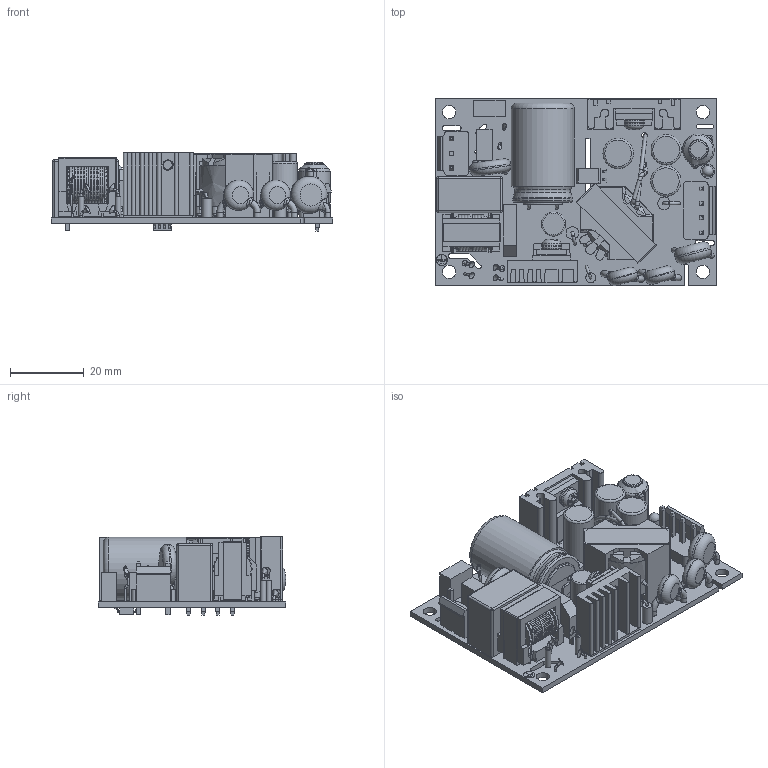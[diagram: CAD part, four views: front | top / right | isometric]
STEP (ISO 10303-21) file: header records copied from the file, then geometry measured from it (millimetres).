
FILE_DESCRIPTION (( 'STEP AP203' ), '1' );
FILE_NAME ('CFM40MXXX-1130103.STEP', '2024-08-02T09:09:31', ( '' ), ( '' ), 'SwSTEP 2.0', 'SolidWorks 2020', '' );
FILE_SCHEMA (( 'CONFIG_CONTROL_DESIGN' ));
Length unit declared in the file: millimetre
Products named in the file (1): CFM40MXXX-1130103
Bounding box: 76.2 x 50.8 x 21.19 mm (x, y, z)
Volume: 32637.8 mm3; surface area: 27796.1 mm2
Topology: 2 solids, 44 shells, 1760 faces, 4702 edges, 2971 vertices
Faces by surface type: plane 917, cylinder 429, torus 283, bspline 115, cone 8, sphere 8
Full cylindrical faces by diameter (mm): 0.4 x2, 0.5 x4, 0.583 x2, 0.6 x14, 0.7 x11, 0.8 x14, 0.9 x6, 1 x7, 1.2 x3, 1.4 x4, 1.5 x6, 1.7 x4, 1.8 x6, 2 x2, 2.7 x1, 2.92 x1, 3 x2, 3.3 x2, 3.4 x2, 3.6 x4, 3.8 x1, 5.1 x2, 5.4 x2, 6.5 x1, 7.4 x19, 8.2 x3, 8.8 x1, 10 x3, 11.2 x1, 11.8 x1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
Entity records: 68299 total; most frequent: CARTESIAN_POINT 26929, DIRECTION 8278, ORIENTED_EDGE 8252, EDGE_CURVE 4126, VERTEX_POINT 2837, AXIS2_PLACEMENT_3D 2824, LINE 2630, VECTOR 2630
